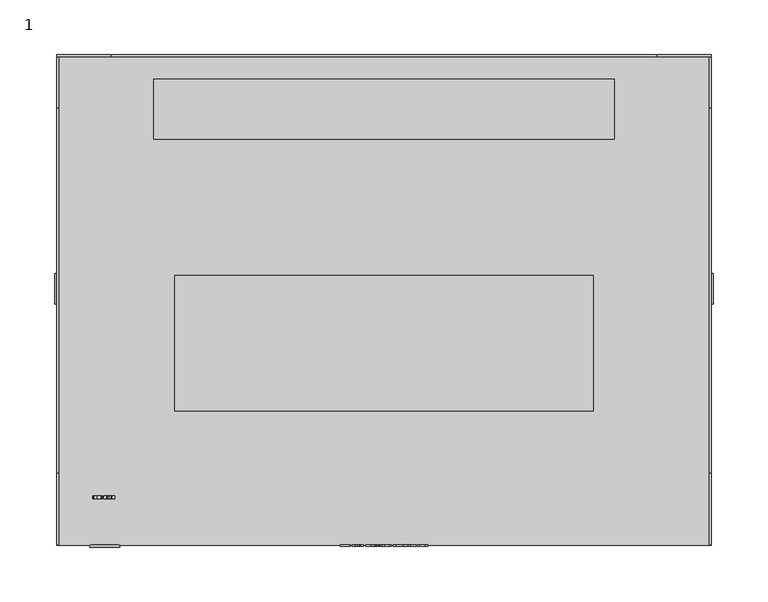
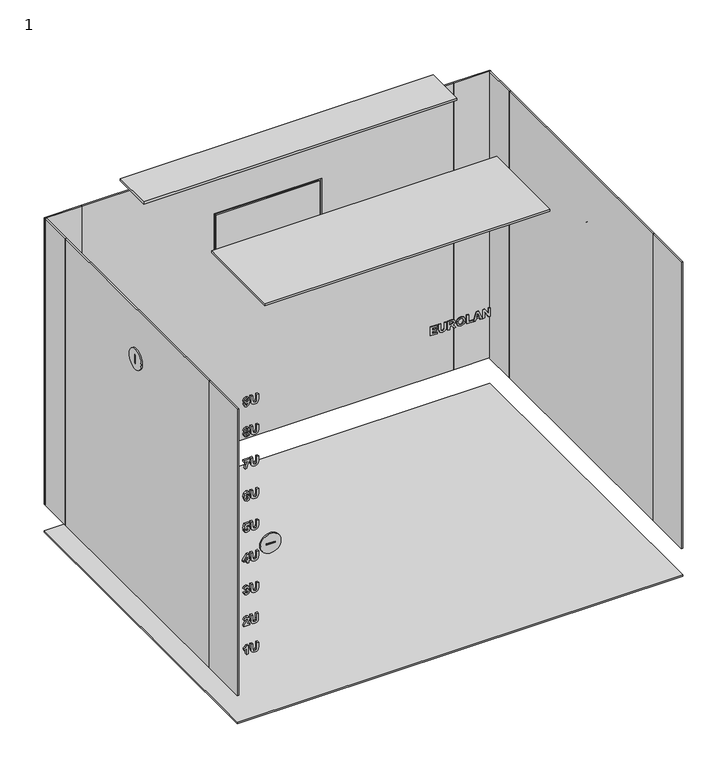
"""IFC4 building model written with IfcOpenShell, lengths in millimetres: proxy geometry, 1 : 9U 450мм металлическая дверь."""

from ifc_helpers import new_model, si_unit, point, frame, frame_2d, origin, origin_with_axes, place, context, project, spatial, polyline, circle_curve, trimmed, segment, composite_curve, outline, extrude, source, transform, mapped, element, save


def proxy_1_55a6360b(model_context):
    return source(origin(), model_context, "Body", "SweptSolid", [
        extrude(outline(polyline([(462.0, -40.3245382), (462.0, -30.9964522), (464.1376864, -30.9964522), (464.1376864, -37.9925167), (467.2470483, -37.9925167), (467.2470483, -31.5794576), (469.3847347, -31.5794576), (469.3847347, -37.9925167), (472.1054264, -37.9925167), (472.1054264, -31.1907874), (474.2431128, -31.1907874), (474.2431128, -40.3245382), (462.0, -40.3245382)])), frame((0.0, -226.0, 0.0), z_axis=(0.0, 1.0, 0.0), x_axis=(0.0, 0.0, 1.0)), (0.0, 0.0, 1.0), 1.0),
        extrude(outline(polyline([(474.2431128, -29.053101), (467.7207402, -29.053101), (464.6174512, -28.8071456), (463.2601418, -28.1026808), (462.2095176, -26.6482039), (461.8056649, -23.9487675), (462.1761162, -21.5575346), (463.173602, -20.0954664), (464.7085458, -19.3454543), (467.8209443, -19.1420097), (474.2431128, -19.1420097), (474.2431128, -21.4740312), (467.4960402, -21.4740312), (465.4236383, -21.5924541), (464.3714958, -22.2923642), (463.9433512, -24.0216432), (464.3973059, -25.7979877), (465.5982363, -26.6208755), (467.6387551, -26.7210795), (474.2431128, -26.7210795), (474.2431128, -29.053101)])), frame((0.0, -226.0, 0.0), z_axis=(0.0, 1.0, 0.0), x_axis=(0.0, 0.0, 1.0)), (0.0, 0.0, 1.0), 1.0),
        extrude(outline(polyline([(462.0, -16.8099882), (462.0, -14.4779667), (467.0527132, -13.9435451), (466.9251808, -12.6120459), (466.4560437, -11.8164865), (464.7966039, -10.4242575), (462.0, -8.6509495), (462.0, -5.9272213), (464.3745323, -7.424209), (466.3512849, -8.7238252), (467.3715443, -9.9475291), (468.5071902, -7.6625732), (470.7936644, -6.8988969), (472.7339791, -7.4272455), (473.9121358, -8.8361752), (474.2431128, -11.6601074), (474.2431128, -16.8099882), (462.0, -16.8099882)]), holes=[polyline([(469.1903996, -14.4779667), (472.1054264, -14.4779667), (472.1054264, -12.4495939), (472.0659521, -10.5548264), (471.6150339, -9.5770778), (470.6782779, -9.2309184), (469.817434, -9.4935744), (469.3315962, -10.2223312), (469.1903996, -12.5558709), (469.1903996, -14.4779667)])]), frame((0.0, -226.0, 0.0), z_axis=(0.0, 1.0, 0.0), x_axis=(0.0, 0.0, 1.0)), (0.0, 0.0, 1.0), 1.0),
        extrude(outline(polyline([(468.0456442, -4.9555457), (463.4681411, -3.3735363), (461.8056649, 0.8896905), (463.4757323, 5.1225524), (468.106374, 6.7045618), (472.7628257, 5.1104065), (474.4374479, 0.8593256), (473.9546466, -1.7338337), (472.8539203, -3.2869964), (471.1792981, -4.4059416), (468.0456442, -4.9555457)]), holes=[polyline([(468.1306659, -2.6235242), (471.2612832, -1.6579215), (472.2997616, 0.886654), (471.2734292, 3.4190836), (468.1640672, 4.3725403), (464.9985302, 3.3932735), (463.9433512, 0.886654), (465.0061214, -1.6321114), (468.1306659, -2.6235242)])]), frame((0.0, -226.0, 0.0), z_axis=(0.0, 1.0, 0.0), x_axis=(0.0, 0.0, 1.0)), (0.0, 0.0, 1.0), 1.0),
        extrude(outline(polyline([(462.0, 8.647913), (462.0, 17.1986585), (464.1376864, 17.1986585), (464.1376864, 10.9799345), (474.2431128, 10.9799345), (474.2431128, 8.647913), (462.0, 8.647913)])), frame((0.0, -226.0, 0.0), z_axis=(0.0, 1.0, 0.0), x_axis=(0.0, 0.0, 1.0)), (0.0, 0.0, 1.0), 1.0),
        extrude(outline(polyline([(462.0, 29.2474361), (474.2431128, 24.7352175), (474.2431128, 22.2513717), (462.0, 17.7816638), (462.0, 20.2655096), (464.7206917, 21.2128934), (464.7206917, 25.837462), (462.0, 26.7969917), (462.0, 29.2474361)]), holes=[polyline([(466.8583781, 25.0904864), (466.8583781, 21.959869), (471.3280859, 23.51455), (466.8583781, 25.0904864)])]), frame((0.0, -226.0, 0.0), z_axis=(0.0, 1.0, 0.0), x_axis=(0.0, 0.0, 1.0)), (0.0, 0.0, 1.0), 1.0),
        extrude(outline(polyline([(462.0, 30.4134469), (462.0, 32.7454684), (470.1195644, 32.7454684), (462.0, 37.8042546), (462.0, 40.3245382), (474.2431128, 40.3245382), (474.2431128, 37.9925167), (466.002089, 37.9925167), (474.2431128, 32.8578184), (474.2431128, 30.4134469), (462.0, 30.4134469)])), frame((0.0, -226.0, 0.0), z_axis=(0.0, 1.0, 0.0), x_axis=(0.0, 0.0, 1.0)), (0.0, 0.0, 1.0), 1.0),
        extrude(outline(composite_curve([segment(trimmed(circle_curve(frame_2d((9.997621, 377.4611412)), 14.0), [point((-4.002379, 377.4611412))], [point((23.997621, 377.4611412))], False, "CARTESIAN"), True, "CONTINUOUS"), segment(trimmed(circle_curve(frame_2d((9.997621, 377.4611412)), 14.0), [point((23.997621, 377.4611412))], [point((-4.002379, 377.4611412))], False, "CARTESIAN"), True, "CONTINUOUS")], self_intersect=False), holes=[polyline([(11.0, 383.5), (9.0, 383.5), (9.0, 371.5), (11.0, 371.5), (11.0, 383.5)])]), frame((-302.0, 0.0, 0.0), z_axis=(1.0, 0.0, 0.0), x_axis=(0.0, 1.0, 0.0)), (0.0, 0.0, 1.0), 2.0),
        extrude(outline(composite_curve([segment(trimmed(circle_curve(frame_2d((9.997621, 377.4611412)), 14.0), [point((-4.002379, 377.4611412))], [point((23.997621, 377.4611412))], False, "CARTESIAN"), True, "CONTINUOUS"), segment(trimmed(circle_curve(frame_2d((9.997621, 377.4611412)), 14.0), [point((23.997621, 377.4611412))], [point((-4.002379, 377.4611412))], False, "CARTESIAN"), True, "CONTINUOUS")], self_intersect=False), holes=[polyline([(11.0, 383.5), (9.0, 383.5), (9.0, 371.5), (11.0, 371.5), (11.0, 383.5)])]), frame((300.0, 0.0, 0.0), z_axis=(1.0, 0.0, 0.0), x_axis=(0.0, 1.0, 0.0)), (0.0, 0.0, 1.0), 2.0),
        extrude(outline(composite_curve([segment(trimmed(circle_curve(frame_2d((243.0, -256.0)), 13.7647373), [point((243.0, -242.2352627))], [point((243.0, -269.7647373))], False, "CARTESIAN"), True, "CONTINUOUS"), segment(trimmed(circle_curve(frame_2d((243.0, -256.0)), 13.7647373), [point((243.0, -269.7647373))], [point((243.0, -242.2352627))], False, "CARTESIAN"), True, "CONTINUOUS")], self_intersect=False), holes=[polyline([(244.0, -250.0), (242.0, -250.0), (242.0, -262.0), (244.0, -262.0), (244.0, -250.0)])]), frame((0.0, -227.0, 0.0), z_axis=(0.0, 1.0, 0.0), x_axis=(0.0, 0.0, 1.0)), (0.0, 0.0, 1.0), 2.0),
        extrude(outline(polyline([(300.0, 225.0), (300.0, -225.0), (-300.0, -225.0), (-300.0, 225.0), (300.0, 225.0)])), origin_with_axes(), (0.0, 0.0, 1.0), 2.0),
        extrude(outline(polyline([(211.0, 202.5), (211.0, 147.5), (-211.0, 147.5), (-211.0, 202.5), (211.0, 202.5)])), frame((0.0, 0.0, 482.9795778), z_axis=(0.0, 0.0, 1.0), x_axis=(1.0, 0.0, 0.0)), (0.0, 0.0, 1.0), 3.0204222),
        extrude(outline(polyline([(192.0, 22.0), (192.0, -102.0), (-192.0, -102.0), (-192.0, 22.0), (192.0, 22.0)])), frame((0.0, 0.0, 482.9795778), z_axis=(0.0, 0.0, 1.0), x_axis=(1.0, 0.0, 0.0)), (0.0, 0.0, 1.0), 3.0204222),
        extrude(outline(polyline([(-69.5, 225.0), (69.5, 225.0), (69.5, 223.0), (-69.5, 223.0), (-69.5, 225.0)])), frame((0.0, 0.0, 323.0), z_axis=(0.0, 0.0, 1.0), x_axis=(1.0, 0.0, 0.0)), (0.0, 0.0, 1.0), 49.0),
        extrude(outline(polyline([(448.0, -250.0), (40.0, -250.0), (40.0, 250.0), (448.0, 250.0), (448.0, -250.0)]), holes=[polyline([(375.0, -72.5), (375.0, 72.5), (320.0, 72.5), (320.0, -72.5), (375.0, -72.5)])]), frame((0.0, 223.0, 0.0), z_axis=(0.0, 1.0, 0.0), x_axis=(0.0, 0.0, 1.0)), (0.0, 0.0, 1.0), 2.0),
        extrude(outline(polyline([(-300.0, 225.0), (-250.0, 225.0), (-250.0, 223.0), (-300.0, 223.0), (-300.0, 225.0)])), frame((0.0, 0.0, 40.0), z_axis=(0.0, 0.0, 1.0), x_axis=(1.0, 0.0, 0.0)), (0.0, 0.0, 1.0), 408.0),
        extrude(outline(polyline([(250.0, 225.0), (300.0, 225.0), (300.0, 223.0), (250.0, 223.0), (250.0, 225.0)])), frame((0.0, 0.0, 40.0), z_axis=(0.0, 0.0, 1.0), x_axis=(1.0, 0.0, 0.0)), (0.0, 0.0, 1.0), 408.0),
        extrude(outline(polyline([(-298.0, 175.8155315), (-298.0, -158.7095641), (-300.0, -158.7095641), (-300.0, 175.8155315), (-298.0, 175.8155315)])), frame((0.0, 0.0, 40.0), z_axis=(0.0, 0.0, 1.0), x_axis=(1.0, 0.0, 0.0)), (0.0, 0.0, 1.0), 408.0),
        extrude(outline(polyline([(-298.0, -158.7095641), (-298.0, -225.0), (-300.0, -225.0), (-300.0, -158.7095641), (-298.0, -158.7095641)])), frame((0.0, 0.0, 40.0), z_axis=(0.0, 0.0, 1.0), x_axis=(1.0, 0.0, 0.0)), (0.0, 0.0, 1.0), 408.0),
        extrude(outline(polyline([(-298.0, 225.0), (-298.0, 175.8155315), (-300.0, 175.8155315), (-300.0, 225.0), (-298.0, 225.0)])), frame((0.0, 0.0, 40.0), z_axis=(0.0, 0.0, 1.0), x_axis=(1.0, 0.0, 0.0)), (0.0, 0.0, 1.0), 408.0),
        extrude(outline(polyline([(300.0, 175.8155315), (300.0, -158.7095641), (298.0, -158.7095641), (298.0, 175.8155315), (300.0, 175.8155315)])), frame((0.0, 0.0, 40.0), z_axis=(0.0, 0.0, 1.0), x_axis=(1.0, 0.0, 0.0)), (0.0, 0.0, 1.0), 408.0),
        extrude(outline(polyline([(300.0, 225.0), (300.0, 175.8155315), (298.0, 175.8155315), (298.0, 225.0), (300.0, 225.0)])), frame((0.0, 0.0, 40.0), z_axis=(0.0, 0.0, 1.0), x_axis=(1.0, 0.0, 0.0)), (0.0, 0.0, 1.0), 408.0),
        extrude(outline(polyline([(300.0, -158.7095641), (300.0, -225.0), (298.0, -225.0), (298.0, -158.7095641), (300.0, -158.7095641)])), frame((0.0, 0.0, 40.0), z_axis=(0.0, 0.0, 1.0), x_axis=(1.0, 0.0, 0.0)), (0.0, 0.0, 1.0), 408.0),
        extrude(outline(polyline([(416.2414631, -266.2387962), (413.8062011, -265.1547706), (412.9924228, -262.9381356), (414.4696734, -259.8469925), (419.2870589, -258.6597264), (423.9981674, -259.7953723), (425.4298707, -262.7012897), (424.3169985, -265.3809888), (421.3852709, -266.4331314), (418.550711, -265.4083172), (417.4621306, -262.971537), (418.476317, -260.8065222), (415.7753625, -261.4290019), (415.1301091, -262.6071586), (415.4641226, -263.4922944), (416.490455, -263.9067747), (416.2414631, -266.2387962)]), holes=[polyline([(421.3306142, -260.9917479), (420.0385892, -261.4365931), (419.599817, -262.5312464), (420.0568082, -263.6517099), (421.4885115, -264.1011099), (422.8701127, -263.6881477), (423.2921843, -262.6496694), (422.7774999, -261.4927681), (421.3306142, -260.9917479)])]), frame((0.0, -182.6777479, 0.0), z_axis=(0.0, 1.0, 0.0), x_axis=(0.0, 0.0, 1.0)), (0.0, 0.0, 1.0), 3.0),
        extrude(outline(polyline([(425.4298707, -256.7163752), (418.9074981, -256.7163752), (415.8042091, -256.4704198), (414.4468997, -255.7659549), (413.3962754, -254.311478), (412.9924228, -251.6120417), (413.3628741, -249.2208087), (414.3603599, -247.7587405), (415.8953037, -247.0087284), (419.0077021, -246.8052838), (425.4298707, -246.8052838), (425.4298707, -249.1373053), (418.6827981, -249.1373053), (416.6103962, -249.2557283), (415.5582537, -249.9556384), (415.1301091, -251.6849173), (415.5840638, -253.4612618), (416.7849942, -254.2841496), (418.825513, -254.3843537), (425.4298707, -254.3843537), (425.4298707, -256.7163752)])), frame((0.0, -182.6777479, 0.0), z_axis=(0.0, 1.0, 0.0), x_axis=(0.0, 0.0, 1.0)), (0.0, 0.0, 1.0), 3.0),
        extrude(outline(polyline([(376.4962498, -264.3865396), (375.2254803, -265.9397023), (373.4172527, -266.4331314), (370.6024299, -265.1669166), (369.7339948, -262.4826627), (370.784619, -259.7042777), (373.5174567, -258.6597264), (375.3120201, -259.1865568), (376.4962498, -260.7245371), (377.508918, -259.3444541), (379.0226064, -258.8540615), (381.280234, -259.8227007), (382.1714427, -262.5464289), (381.280234, -265.2777483), (379.0226064, -266.2387962), (377.5499105, -265.7985057), (376.4962498, -264.3865396)]), holes=[polyline([(378.8798915, -263.9067747), (380.000355, -263.5332869), (380.4224266, -262.5312464), (380.0033915, -261.5550161), (378.889001, -261.186083), (377.7320997, -261.5595708), (377.3130646, -262.5555383), (377.727545, -263.5378417), (378.8798915, -263.9067747)]), polyline([(373.6146243, -264.1011099), (374.94916, -263.7169943), (375.5640485, -262.5494654), (375.0220357, -261.4320384), (373.5872959, -260.9917479), (372.0250237, -261.4244472), (371.4830109, -262.5191005), (372.0462791, -263.6486734), (373.6146243, -264.1011099)])]), frame((0.0, -182.6777479, 0.0), z_axis=(0.0, 1.0, 0.0), x_axis=(0.0, 0.0, 1.0)), (0.0, 0.0, 1.0), 3.0),
        extrude(outline(polyline([(382.1714427, -256.7163752), (375.6490701, -256.7163752), (372.5457811, -256.4704198), (371.1884717, -255.7659549), (370.1378475, -254.311478), (369.7339948, -251.6120417), (370.1044461, -249.2208087), (371.1019319, -247.7587405), (372.6368757, -247.0087284), (375.7492742, -246.8052838), (382.1714427, -246.8052838), (382.1714427, -249.1373053), (375.4243701, -249.1373053), (373.3519682, -249.2557283), (372.2998257, -249.9556384), (371.8716811, -251.6849173), (372.3256358, -253.4612618), (373.5265662, -254.2841496), (375.567085, -254.3843537), (382.1714427, -254.3843537), (382.1714427, -256.7163752)])), frame((0.0, -182.6777479, 0.0), z_axis=(0.0, 1.0, 0.0), x_axis=(0.0, 0.0, 1.0)), (0.0, 0.0, 1.0), 3.0),
        extrude(outline(polyline([(334.6450861, -266.4331314), (334.6450861, -261.3257614), (330.0129262, -264.008497), (324.9283299, -265.0727855), (324.9283299, -262.740764), (328.5812229, -262.2154519), (332.440597, -260.6622891), (335.2280915, -258.6597264), (336.9771076, -258.6597264), (336.9771076, -266.4331314), (334.6450861, -266.4331314)])), frame((0.0, -182.6777479, 0.0), z_axis=(0.0, 1.0, 0.0), x_axis=(0.0, 0.0, 1.0)), (0.0, 0.0, 1.0), 3.0),
        extrude(outline(polyline([(337.1714427, -256.7163752), (330.6490701, -256.7163752), (327.5457811, -256.4704198), (326.1884717, -255.7659549), (325.1378475, -254.311478), (324.7339948, -251.6120417), (325.1044461, -249.2208087), (326.1019319, -247.7587405), (327.6368757, -247.0087284), (330.7492742, -246.8052838), (337.1714427, -246.8052838), (337.1714427, -249.1373053), (330.4243701, -249.1373053), (328.3519682, -249.2557283), (327.2998257, -249.9556384), (326.8716811, -251.6849173), (327.3256358, -253.4612618), (328.5265662, -254.2841496), (330.567085, -254.3843537), (337.1714427, -254.3843537), (337.1714427, -256.7163752)])), frame((0.0, -182.6777479, 0.0), z_axis=(0.0, 1.0, 0.0), x_axis=(0.0, 0.0, 1.0)), (0.0, 0.0, 1.0), 3.0),
        extrude(outline(polyline([(287.6111434, -258.8540615), (290.0281866, -259.9654155), (290.8601838, -262.1668681), (289.381415, -265.2473834), (284.5534017, -266.4331314), (279.8559574, -265.2974855), (278.4227359, -262.4006775), (279.5325716, -259.7073142), (282.4764451, -258.6597264), (285.2973409, -259.6845405), (286.390476, -262.1486492), (285.3671801, -264.2802626), (288.0772441, -263.6638558), (288.7224974, -262.4674802), (288.3900022, -261.5990451), (287.3621516, -261.186083), (287.6111434, -258.8540615)]), holes=[polyline([(282.5280654, -264.1011099), (283.8155356, -263.6532281), (284.2527896, -262.5585748), (283.7957984, -261.4396296), (282.3549856, -260.9917479), (280.9794573, -261.4077465), (280.5604222, -262.4462248), (281.0720702, -263.5970531), (282.5280654, -264.1011099)])]), frame((0.0, -182.6777479, 0.0), z_axis=(0.0, 1.0, 0.0), x_axis=(0.0, 0.0, 1.0)), (0.0, 0.0, 1.0), 3.0),
        extrude(outline(polyline([(290.8601838, -256.7163752), (284.3378112, -256.7163752), (281.2345222, -256.4704198), (279.8772128, -255.7659549), (278.8265886, -254.311478), (278.4227359, -251.6120417), (278.7931872, -249.2208087), (279.790673, -247.7587405), (281.3256168, -247.0087284), (284.4380153, -246.8052838), (290.8601838, -246.8052838), (290.8601838, -249.1373053), (284.1131112, -249.1373053), (282.0407093, -249.2557283), (280.9885668, -249.9556384), (280.5604222, -251.6849173), (281.0143769, -253.4612618), (282.2153073, -254.2841496), (284.2558261, -254.3843537), (290.8601838, -254.3843537), (290.8601838, -256.7163752)])), frame((0.0, -182.6777479, 0.0), z_axis=(0.0, 1.0, 0.0), x_axis=(0.0, 0.0, 1.0)), (0.0, 0.0, 1.0), 3.0),
        extrude(outline(polyline([(237.3503584, -266.4331314), (234.6964693, -265.1957632), (233.7096113, -262.522137), (235.2825112, -259.312571), (237.9029989, -258.4653913), (240.7679237, -259.4826142), (241.8716865, -261.960387), (241.3949581, -263.4634477), (243.6207026, -262.9927924), (243.6207026, -259.0483966), (245.9527241, -259.0483966), (245.9527241, -264.8784504), (239.0629366, -266.2387962), (238.7623245, -264.2164963), (239.7340001, -262.509991), (239.2633447, -261.2726229), (237.8513786, -260.7974128), (236.3467996, -261.3090607), (235.8472976, -262.5585748), (236.317953, -263.7002937), (237.5963138, -264.295445), (237.3503584, -266.4331314)])), frame((0.0, -182.6777479, 0.0), z_axis=(0.0, 1.0, 0.0), x_axis=(0.0, 0.0, 1.0)), (0.0, 0.0, 1.0), 3.0),
        extrude(outline(polyline([(246.1470592, -256.7163752), (239.6246866, -256.7163752), (236.5213976, -256.4704198), (235.1640882, -255.7659549), (234.113464, -254.311478), (233.7096113, -251.6120417), (234.0800626, -249.2208087), (235.0775484, -247.7587405), (236.6124922, -247.0087284), (239.7248907, -246.8052838), (246.1470592, -246.8052838), (246.1470592, -249.1373053), (239.3999866, -249.1373053), (237.3275847, -249.2557283), (236.2754422, -249.9556384), (235.8472976, -251.6849173), (236.3012523, -253.4612618), (237.5021827, -254.2841496), (239.5427015, -254.3843537), (246.1470592, -254.3843537), (246.1470592, -256.7163752)])), frame((0.0, -182.6777479, 0.0), z_axis=(0.0, 1.0, 0.0), x_axis=(0.0, 0.0, 1.0)), (0.0, 0.0, 1.0), 3.0),
        extrude(outline(polyline([(189.9283299, -262.1577586), (189.9283299, -259.8257371), (192.4546865, -259.8257371), (192.4546865, -258.2710562), (194.3980377, -258.2710562), (194.3980377, -259.8257371), (201.9771076, -259.8257371), (201.9771076, -261.848037), (194.3889283, -266.8218016), (192.4546865, -266.8218016), (192.4546865, -262.1577586), (189.9283299, -262.1577586)]), holes=[polyline([(194.3980377, -262.1577586), (194.3980377, -264.7630639), (198.3758348, -262.1577586), (194.3980377, -262.1577586)])]), frame((0.0, -182.6777479, 0.0), z_axis=(0.0, 1.0, 0.0), x_axis=(0.0, 0.0, 1.0)), (0.0, 0.0, 1.0), 3.0),
        extrude(outline(polyline([(202.1714427, -256.7163752), (195.6490701, -256.7163752), (192.5457811, -256.4704198), (191.1884717, -255.7659549), (190.1378475, -254.311478), (189.7339948, -251.6120417), (190.1044461, -249.2208087), (191.1019319, -247.7587405), (192.6368757, -247.0087284), (195.7492742, -246.8052838), (202.1714427, -246.8052838), (202.1714427, -249.1373053), (195.4243701, -249.1373053), (193.3519682, -249.2557283), (192.2998257, -249.9556384), (191.8716811, -251.6849173), (192.3256358, -253.4612618), (193.5265662, -254.2841496), (195.567085, -254.3843537), (202.1714427, -254.3843537), (202.1714427, -256.7163752)])), frame((0.0, -182.6777479, 0.0), z_axis=(0.0, 1.0, 0.0), x_axis=(0.0, 0.0, 1.0)), (0.0, 0.0, 1.0), 3.0),
        extrude(outline(polyline([(148.35045, -266.4331314), (145.734517, -265.2200551), (144.7339948, -262.5859032), (145.859013, -259.7847446), (148.5781864, -258.6597264), (150.4562532, -259.294352), (151.4567755, -260.9887114), (154.0286794, -259.2427318), (156.0691982, -260.0565101), (157.1714427, -262.6739613), (156.773663, -264.3971673), (155.6820462, -265.5965794), (153.8282713, -266.2387962), (153.4790753, -263.9067747), (154.6374949, -263.4892579), (155.0337563, -262.6587789), (154.6921516, -261.8708107), (153.776651, -261.5747533), (152.6956619, -261.9710147), (152.3130646, -263.1203248), (150.3909688, -263.3237694), (150.5640485, -262.397641), (150.0812472, -261.4001553), (148.7725216, -260.9917479), (147.3863656, -261.4381114), (146.8716811, -262.5403559), (147.3210811, -263.5757977), (148.6206973, -264.1011099), (148.35045, -266.4331314)])), frame((0.0, -182.6777479, 0.0), z_axis=(0.0, 1.0, 0.0), x_axis=(0.0, 0.0, 1.0)), (0.0, 0.0, 1.0), 3.0),
        extrude(outline(polyline([(157.1714427, -256.7163752), (150.6490701, -256.7163752), (147.5457811, -256.4704198), (146.1884717, -255.7659549), (145.1378475, -254.311478), (144.7339948, -251.6120417), (145.1044461, -249.2208087), (146.1019319, -247.7587405), (147.6368757, -247.0087284), (150.7492742, -246.8052838), (157.1714427, -246.8052838), (157.1714427, -249.1373053), (150.4243701, -249.1373053), (148.3519682, -249.2557283), (147.2998257, -249.9556384), (146.8716811, -251.6849173), (147.3256358, -253.4612618), (148.5265662, -254.2841496), (150.567085, -254.3843537), (157.1714427, -254.3843537), (157.1714427, -256.7163752)])), frame((0.0, -182.6777479, 0.0), z_axis=(0.0, 1.0, 0.0), x_axis=(0.0, 0.0, 1.0)), (0.0, 0.0, 1.0), 3.0),
        extrude(outline(polyline([(103.3014708, -258.8246798), (103.9391329, -262.7326376), (105.2660774, -261.4011384), (106.7964665, -259.9512162), (108.3298921, -259.094927), (109.8724272, -258.8246798), (112.2545507, -259.8115378), (113.2125621, -262.5261566), (112.3577912, -265.1527172), (109.5384137, -266.4037496), (109.3258596, -264.0717281), (110.6695048, -263.6223281), (111.0748758, -262.5777768), (110.6634319, -261.5347438), (109.4837569, -261.1567012), (108.0809003, -261.6061012), (106.1254031, -263.4097741), (103.2574418, -265.8541456), (100.9694493, -266.5980847), (100.9694493, -258.8246798), (103.3014708, -258.8246798)])), frame((0.0, -182.6777479, 0.0), z_axis=(0.0, 1.0, 0.0), x_axis=(0.0, 0.0, 1.0)), (0.0, 0.0, 1.0), 3.0),
        extrude(outline(polyline([(113.2125621, -256.8813285), (106.6901895, -256.8813285), (103.5869005, -256.6353731), (102.2295911, -255.9309083), (101.1789669, -254.4764314), (100.7751142, -251.776995), (101.1455655, -249.3857621), (102.1430513, -247.9236939), (103.6779951, -247.1736818), (106.7903936, -246.9702372), (113.2125621, -246.9702372), (113.2125621, -249.3022587), (106.4654895, -249.3022587), (104.3930876, -249.4206817), (103.3409451, -250.1205917), (102.9128006, -251.8498707), (103.3667553, -253.6262152), (104.5676856, -254.449103), (106.6082044, -254.549307), (113.2125621, -254.549307), (113.2125621, -256.8813285)])), frame((0.0, -182.6777479, 0.0), z_axis=(0.0, 1.0, 0.0), x_axis=(0.0, 0.0, 1.0)), (0.0, 0.0, 1.0), 3.0),
        extrude(outline(polyline([(59.9283299, -260.6030776), (72.1714427, -260.6030776), (72.1714427, -262.4614073), (70.2053178, -263.9037383), (69.0620807, -265.850126), (66.7300592, -265.850126), (68.6794834, -262.9350991), (59.9283299, -262.9350991), (59.9283299, -260.6030776)])), frame((0.0, -182.6777479, 0.0), z_axis=(0.0, 1.0, 0.0), x_axis=(0.0, 0.0, 1.0)), (0.0, 0.0, 1.0), 3.0),
        extrude(outline(polyline([(72.1714427, -256.7163752), (65.6490701, -256.7163752), (62.5457811, -256.4704198), (61.1884717, -255.7659549), (60.1378475, -254.311478), (59.7339948, -251.6120417), (60.1044461, -249.2208087), (61.1019319, -247.7587405), (62.6368757, -247.0087284), (65.7492742, -246.8052838), (72.1714427, -246.8052838), (72.1714427, -249.1373053), (65.4243701, -249.1373053), (63.3519682, -249.2557283), (62.2998257, -249.9556384), (61.8716811, -251.6849173), (62.3256358, -253.4612618), (63.5265662, -254.2841496), (65.567085, -254.3843537), (72.1714427, -254.3843537), (72.1714427, -256.7163752)])), frame((0.0, -182.6777479, 0.0), z_axis=(0.0, 1.0, 0.0), x_axis=(0.0, 0.0, 1.0)), (0.0, 0.0, 1.0), 3.0),
    ])


if __name__ == "__main__":
    model = new_model("IFC4")
    model_context = context("Model", 3, world=origin())
    ifc_project = project(units=[si_unit("LENGTHUNIT", "METRE", prefix="MILLI")], contexts=[model_context])
    site = spatial("IfcSite", under=ifc_project)
    building = spatial("IfcBuilding", under=site)
    placement = place(None, origin())
    proxy_1_shape = proxy_1_55a6360b(model_context)
    element("IfcBuildingElementProxy", 1, Name="1 : 9U 450мм металлическая дверь", ObjectType="1 : 9U 450мм металлическая дверь", at=placement, inside=building, context=model_context, shape_type="MappedRepresentation", body=[
        mapped(proxy_1_shape, transform((0.0, 0.0, 0.0), x_axis=(1.0, 0.0, 0.0), y_axis=(0.0, 1.0, 0.0), z_axis=(0.0, 0.0, 1.0))),
    ])
    save(model, "model.ifc")
